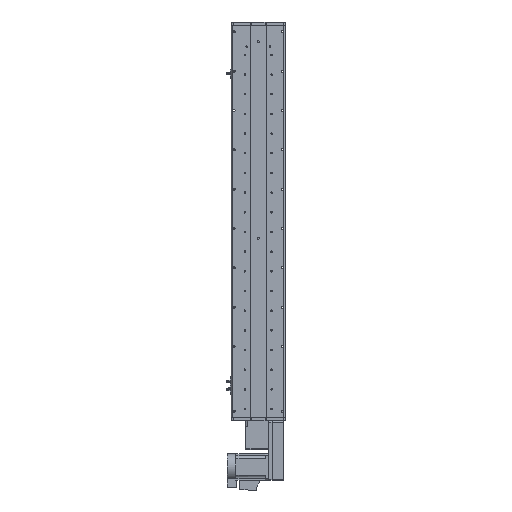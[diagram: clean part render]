
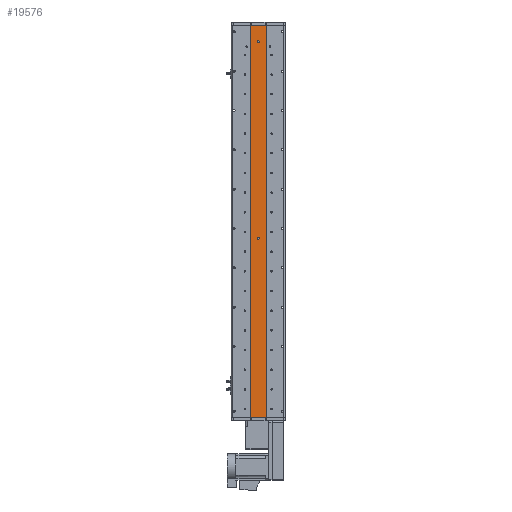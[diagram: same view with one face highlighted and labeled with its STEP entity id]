
A CAD part, front view. The second image highlights one B-rep face of the part: STEP entity #19576.
In plain terms, the highlighted planar face has unit normal (0, -1, 0).
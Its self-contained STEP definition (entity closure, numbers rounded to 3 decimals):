
#258 = VERTEX_POINT ( 'NONE', #37938 ) ;
#490 = FACE_OUTER_BOUND ( 'NONE', #4073, .T. ) ;
#1301 = CARTESIAN_POINT ( 'NONE',  ( 25., 1., 598.5 ) ) ;
#1636 = EDGE_CURVE ( 'NONE', #34923, #63046, #51931, .T. ) ;
#4073 = EDGE_LOOP ( 'NONE', ( #38332, #42883, #11623, #20468 ) ) ;
#5876 = VERTEX_POINT ( 'NONE', #47991 ) ;
#5922 = AXIS2_PLACEMENT_3D ( 'NONE', #1301, #46397, #16441 ) ;
#5971 = EDGE_CURVE ( 'NONE', #5876, #31479, #13421, .T. ) ;
#7976 = CARTESIAN_POINT ( 'NONE',  ( 0., 1., -51.5 ) ) ;
#10304 = DIRECTION ( 'NONE',  ( 0., -1., 0. ) ) ;
#11623 = ORIENTED_EDGE ( 'NONE', *, *, #5971, .F. ) ;
#13043 = AXIS2_PLACEMENT_3D ( 'NONE', #7976, #20419, #55387 ) ;
#13421 = LINE ( 'NONE', #48858, #39959 ) ;
#14708 = LINE ( 'NONE', #43486, #38158 ) ;
#16441 = DIRECTION ( 'NONE',  ( 0., 0., 1. ) ) ;
#16751 = EDGE_CURVE ( 'NONE', #5876, #35064, #51030, .T. ) ;
#17382 = AXIS2_PLACEMENT_3D ( 'NONE', #40231, #10304, #45291 ) ;
#18636 = ORIENTED_EDGE ( 'NONE', *, *, #21244, .F. ) ;
#18911 = CARTESIAN_POINT ( 'NONE',  ( 0., 1., -51.5 ) ) ;
#19132 = DIRECTION ( 'NONE',  ( 1., 0., 0. ) ) ;
#19479 = CIRCLE ( 'NONE', #60075, 3. ) ;
#19576 = ADVANCED_FACE ( 'NONE', ( #50593, #63947, #490 ), #36323, .F. ) ;
#20250 = CARTESIAN_POINT ( 'NONE',  ( 25., 1., -598.5 ) ) ;
#20419 = DIRECTION ( 'NONE',  ( 0., -1., 0. ) ) ;
#20468 = ORIENTED_EDGE ( 'NONE', *, *, #16751, .T. ) ;
#20925 = EDGE_CURVE ( 'NONE', #58962, #258, #19479, .T. ) ;
#21244 = EDGE_CURVE ( 'NONE', #258, #58962, #55390, .T. ) ;
#21806 = VECTOR ( 'NONE', #50200, 1000. ) ;
#22426 = CARTESIAN_POINT ( 'NONE',  ( 0., 1., 548.5 ) ) ;
#22573 = ORIENTED_EDGE ( 'NONE', *, *, #20925, .F. ) ;
#22788 = CIRCLE ( 'NONE', #53609, 3. ) ;
#22926 = VECTOR ( 'NONE', #42392, 1000. ) ;
#23928 = DIRECTION ( 'NONE',  ( 0., 0., -1. ) ) ;
#27470 = DIRECTION ( 'NONE',  ( 0., 0., -1. ) ) ;
#28277 = CARTESIAN_POINT ( 'NONE',  ( 25., 1., -598.5 ) ) ;
#29850 = ORIENTED_EDGE ( 'NONE', *, *, #1636, .F. ) ;
#30282 = ORIENTED_EDGE ( 'NONE', *, *, #60799, .F. ) ;
#31479 = VERTEX_POINT ( 'NONE', #40364 ) ;
#34923 = VERTEX_POINT ( 'NONE', #41838 ) ;
#35064 = VERTEX_POINT ( 'NONE', #62856 ) ;
#36323 = PLANE ( 'NONE',  #5922 ) ;
#37679 = EDGE_LOOP ( 'NONE', ( #29850, #30282 ) ) ;
#37938 = CARTESIAN_POINT ( 'NONE',  ( 0., 1., 545.5 ) ) ;
#38158 = VECTOR ( 'NONE', #63449, 1000. ) ;
#38332 = ORIENTED_EDGE ( 'NONE', *, *, #46431, .T. ) ;
#39959 = VECTOR ( 'NONE', #19132, 1000. ) ;
#40231 = CARTESIAN_POINT ( 'NONE',  ( 0., 1., 548.5 ) ) ;
#40364 = CARTESIAN_POINT ( 'NONE',  ( 25., 1., 598.5 ) ) ;
#40812 = VERTEX_POINT ( 'NONE', #28277 ) ;
#41838 = CARTESIAN_POINT ( 'NONE',  ( 0., 1., -54.5 ) ) ;
#42392 = DIRECTION ( 'NONE',  ( 0., 0., -1. ) ) ;
#42883 = ORIENTED_EDGE ( 'NONE', *, *, #54668, .F. ) ;
#43486 = CARTESIAN_POINT ( 'NONE',  ( 25., 1., 598.5 ) ) ;
#45252 = LINE ( 'NONE', #20250, #21806 ) ;
#45291 = DIRECTION ( 'NONE',  ( 0., 0., -1. ) ) ;
#46397 = DIRECTION ( 'NONE',  ( 0., 1., 0. ) ) ;
#46431 = EDGE_CURVE ( 'NONE', #35064, #40812, #45252, .T. ) ;
#47991 = CARTESIAN_POINT ( 'NONE',  ( -25., 1., 598.5 ) ) ;
#48858 = CARTESIAN_POINT ( 'NONE',  ( 25., 1., 598.5 ) ) ;
#50200 = DIRECTION ( 'NONE',  ( 1., 0., 0. ) ) ;
#50593 = FACE_BOUND ( 'NONE', #57373, .T. ) ;
#51030 = LINE ( 'NONE', #57077, #22926 ) ;
#51203 = CARTESIAN_POINT ( 'NONE',  ( 0., 1., 551.5 ) ) ;
#51931 = CIRCLE ( 'NONE', #13043, 3. ) ;
#53609 = AXIS2_PLACEMENT_3D ( 'NONE', #18911, #53856, #23928 ) ;
#53856 = DIRECTION ( 'NONE',  ( 0., -1., 0. ) ) ;
#54668 = EDGE_CURVE ( 'NONE', #31479, #40812, #14708, .T. ) ;
#55387 = DIRECTION ( 'NONE',  ( 0., 0., -1. ) ) ;
#55390 = CIRCLE ( 'NONE', #17382, 3. ) ;
#56781 = CARTESIAN_POINT ( 'NONE',  ( 0., 1., -48.5 ) ) ;
#57077 = CARTESIAN_POINT ( 'NONE',  ( -25., 1., 598.5 ) ) ;
#57373 = EDGE_LOOP ( 'NONE', ( #18636, #22573 ) ) ;
#57393 = DIRECTION ( 'NONE',  ( 0., -1., 0. ) ) ;
#58962 = VERTEX_POINT ( 'NONE', #51203 ) ;
#60075 = AXIS2_PLACEMENT_3D ( 'NONE', #22426, #57393, #27470 ) ;
#60799 = EDGE_CURVE ( 'NONE', #63046, #34923, #22788, .T. ) ;
#62856 = CARTESIAN_POINT ( 'NONE',  ( -25., 1., -598.5 ) ) ;
#63046 = VERTEX_POINT ( 'NONE', #56781 ) ;
#63449 = DIRECTION ( 'NONE',  ( 0., 0., -1. ) ) ;
#63947 = FACE_BOUND ( 'NONE', #37679, .T. ) ;
